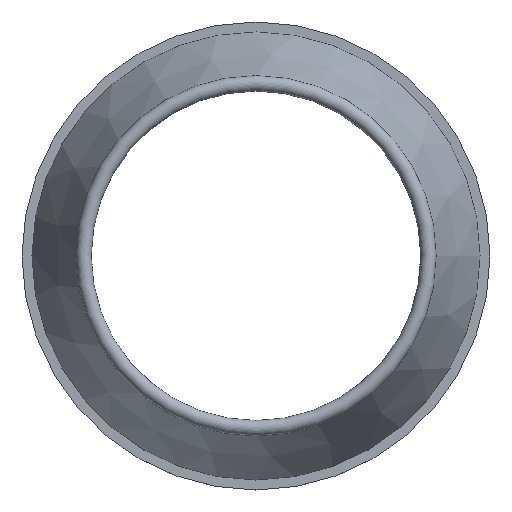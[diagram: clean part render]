
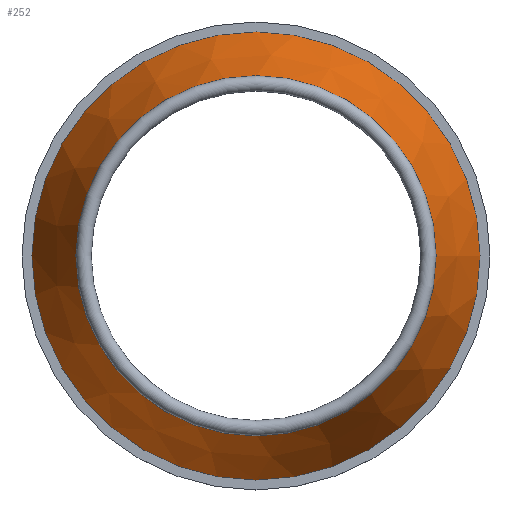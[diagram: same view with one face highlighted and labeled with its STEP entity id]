
A CAD part, top view. The second image highlights one B-rep face of the part: STEP entity #252.
In plain terms, the highlighted conical face has half-angle 22.416 degrees and reference radius 74 mm.
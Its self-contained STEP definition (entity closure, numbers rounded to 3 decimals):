
#94 = TOROIDAL_SURFACE('',#95,56.,2.5);
#95 = AXIS2_PLACEMENT_3D('',#96,#97,#98);
#96 = CARTESIAN_POINT('',(0.,0.,43.));
#97 = DIRECTION('',(0.,0.,1.));
#98 = DIRECTION('',(1.,0.,-0.));
#165 = EDGE_CURVE('',#166,#166,#168,.T.);
#166 = VERTEX_POINT('',#167);
#167 = CARTESIAN_POINT('',(58.075,0.,
    41.606));
#168 = SURFACE_CURVE('',#169,(#174,#181),.PCURVE_S1.);
#169 = CIRCLE('',#170,58.075);
#170 = AXIS2_PLACEMENT_3D('',#171,#172,#173);
#171 = CARTESIAN_POINT('',(0.,0.,41.606));
#172 = DIRECTION('',(0.,0.,1.));
#173 = DIRECTION('',(0.,-1.,0.));
#174 = PCURVE('',#94,#175);
#175 = DEFINITIONAL_REPRESENTATION('',(#176),#180);
#176 = LINE('',#177,#178);
#177 = CARTESIAN_POINT('',(-1.571,5.692));
#178 = VECTOR('',#179,1.);
#179 = DIRECTION('',(1.,0.));
#180 = ( GEOMETRIC_REPRESENTATION_CONTEXT(2) 
PARAMETRIC_REPRESENTATION_CONTEXT() REPRESENTATION_CONTEXT('2D SPACE',''
  ) );
#181 = PCURVE('',#182,#187);
#182 = CONICAL_SURFACE('',#183,74.,0.391);
#183 = AXIS2_PLACEMENT_3D('',#184,#185,#186);
#184 = CARTESIAN_POINT('',(0.,0.,3.));
#185 = DIRECTION('',(-0.,-0.,-1.));
#186 = DIRECTION('',(1.,0.,-0.));
#187 = DEFINITIONAL_REPRESENTATION('',(#188),#192);
#188 = LINE('',#189,#190);
#189 = CARTESIAN_POINT('',(1.571,-38.606));
#190 = VECTOR('',#191,1.);
#191 = DIRECTION('',(-1.,-0.));
#192 = ( GEOMETRIC_REPRESENTATION_CONTEXT(2) 
PARAMETRIC_REPRESENTATION_CONTEXT() REPRESENTATION_CONTEXT('2D SPACE',''
  ) );
#252 = ADVANCED_FACE('',(#253),#182,.T.);
#253 = FACE_BOUND('',#254,.T.);
#254 = EDGE_LOOP('',(#255,#284,#305,#306));
#255 = ORIENTED_EDGE('',*,*,#256,.T.);
#256 = EDGE_CURVE('',#257,#257,#259,.T.);
#257 = VERTEX_POINT('',#258);
#258 = CARTESIAN_POINT('',(72.763,0.,6.));
#259 = SURFACE_CURVE('',#260,(#265,#272),.PCURVE_S1.);
#260 = CIRCLE('',#261,72.763);
#261 = AXIS2_PLACEMENT_3D('',#262,#263,#264);
#262 = CARTESIAN_POINT('',(0.,0.,6.));
#263 = DIRECTION('',(0.,0.,1.));
#264 = DIRECTION('',(1.,0.,-0.));
#265 = PCURVE('',#182,#266);
#266 = DEFINITIONAL_REPRESENTATION('',(#267),#271);
#267 = LINE('',#268,#269);
#268 = CARTESIAN_POINT('',(-0.,-3.));
#269 = VECTOR('',#270,1.);
#270 = DIRECTION('',(-1.,-0.));
#271 = ( GEOMETRIC_REPRESENTATION_CONTEXT(2) 
PARAMETRIC_REPRESENTATION_CONTEXT() REPRESENTATION_CONTEXT('2D SPACE',''
  ) );
#272 = PCURVE('',#273,#278);
#273 = PLANE('',#274);
#274 = AXIS2_PLACEMENT_3D('',#275,#276,#277);
#275 = CARTESIAN_POINT('',(0.,0.,6.));
#276 = DIRECTION('',(0.,0.,1.));
#277 = DIRECTION('',(1.,0.,0.));
#278 = DEFINITIONAL_REPRESENTATION('',(#279),#283);
#279 = CIRCLE('',#280,72.763);
#280 = AXIS2_PLACEMENT_2D('',#281,#282);
#281 = CARTESIAN_POINT('',(0.,0.));
#282 = DIRECTION('',(1.,0.));
#283 = ( GEOMETRIC_REPRESENTATION_CONTEXT(2) 
PARAMETRIC_REPRESENTATION_CONTEXT() REPRESENTATION_CONTEXT('2D SPACE',''
  ) );
#284 = ORIENTED_EDGE('',*,*,#285,.T.);
#285 = EDGE_CURVE('',#257,#166,#286,.T.);
#286 = SEAM_CURVE('',#287,(#291,#298),.PCURVE_S1.);
#287 = LINE('',#288,#289);
#288 = CARTESIAN_POINT('',(74.,0.,3.));
#289 = VECTOR('',#290,1.);
#290 = DIRECTION('',(-0.381,0.,0.924)
  );
#291 = PCURVE('',#182,#292);
#292 = DEFINITIONAL_REPRESENTATION('',(#293),#297);
#293 = LINE('',#294,#295);
#294 = CARTESIAN_POINT('',(0.,-0.));
#295 = VECTOR('',#296,1.);
#296 = DIRECTION('',(-0.,-1.));
#297 = ( GEOMETRIC_REPRESENTATION_CONTEXT(2) 
PARAMETRIC_REPRESENTATION_CONTEXT() REPRESENTATION_CONTEXT('2D SPACE',''
  ) );
#298 = PCURVE('',#182,#299);
#299 = DEFINITIONAL_REPRESENTATION('',(#300),#304);
#300 = LINE('',#301,#302);
#301 = CARTESIAN_POINT('',(-6.283,0.));
#302 = VECTOR('',#303,1.);
#303 = DIRECTION('',(-0.,-1.));
#304 = ( GEOMETRIC_REPRESENTATION_CONTEXT(2) 
PARAMETRIC_REPRESENTATION_CONTEXT() REPRESENTATION_CONTEXT('2D SPACE',''
  ) );
#305 = ORIENTED_EDGE('',*,*,#165,.F.);
#306 = ORIENTED_EDGE('',*,*,#285,.F.);
